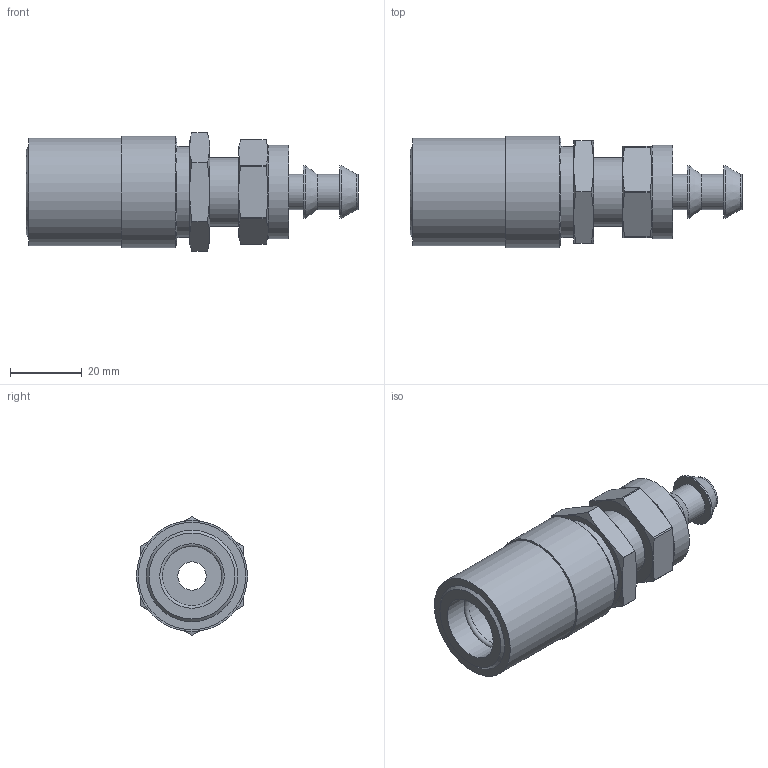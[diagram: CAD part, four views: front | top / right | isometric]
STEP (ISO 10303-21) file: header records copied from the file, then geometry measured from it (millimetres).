
FILE_DESCRIPTION(/* description */ ('STEP AP214'),/* implementation_level */ '2;1');
FILE_NAME(/* name */ 'JSL0504-V',/* time_stamp */ '2024-12-19T09:07:58+01:00',/* author */ ('License CC BY-ND 4.0'),/* organization */ ('CADENAS'),/* preprocessor_version */ 'ST-DEVELOPER v19.3',/* originating_system */ 'PARTsolutions',/* authorisation */ ' ');
FILE_SCHEMA (('AUTOMOTIVE_DESIGN {1 0 10303 214 3 1 1}'));
Length unit declared in the file: inch
Products named in the file (1): JSL0504-V
Bounding box: 92.61 x 30.99 x 32.99 mm (x, y, z)
Volume: 38968.3 mm3; surface area: 12777.1 mm2
Topology: 1 solids, 1 shells, 64 faces, 140 edges, 89 vertices
Faces by surface type: cylinder 25, plane 25, cone 13, torus 1
Full cylindrical faces by diameter (mm): 7.925 x1, 9.906 x3, 14.732 x2, 17.983 x2, 19.05 x1, 25.4 x1, 26.162 x1, 29.972 x1, 30.988 x1
Entity records: 1714 total; most frequent: CARTESIAN_POINT 375, DIRECTION 278, ORIENTED_EDGE 232, AXIS2_PLACEMENT_3D 127, EDGE_CURVE 116, EDGE_LOOP 98, FACE_BOUND 98, VERTEX_POINT 86
